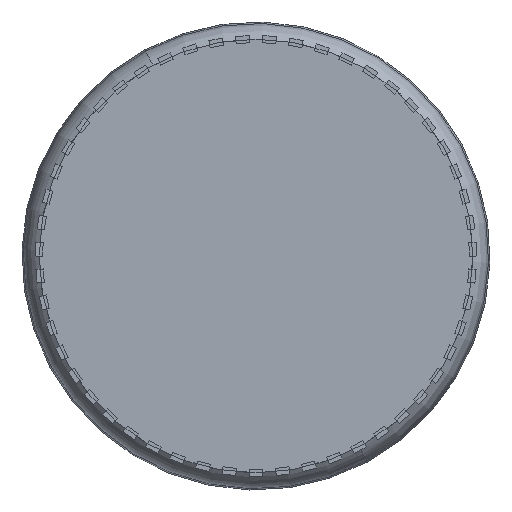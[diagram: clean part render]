
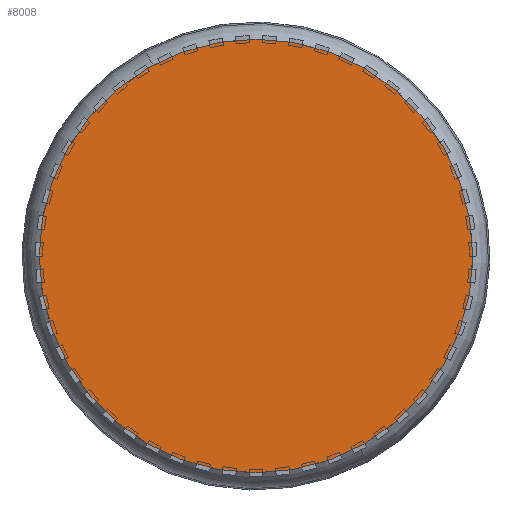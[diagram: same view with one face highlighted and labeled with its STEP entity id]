
A CAD part, front view. The second image highlights one B-rep face of the part: STEP entity #8008.
In plain terms, the highlighted planar face has unit normal (0, -1, 0).
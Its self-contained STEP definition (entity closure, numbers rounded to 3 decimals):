
#298 = PLANE ( 'NONE',  #6568 ) ;
#396 = EDGE_CURVE ( 'NONE', #6819, #2392, #6017, .T. ) ;
#409 = AXIS2_PLACEMENT_3D ( 'NONE', #6498, #8413, #8586 ) ;
#670 = ORIENTED_EDGE ( 'NONE', *, *, #396, .F. ) ;
#1465 = CARTESIAN_POINT ( 'NONE',  ( 0., 0., 37.5 ) ) ;
#2392 = VERTEX_POINT ( 'NONE', #2557 ) ;
#2557 = CARTESIAN_POINT ( 'NONE',  ( 0., 0., -37.5 ) ) ;
#3121 = DIRECTION ( 'NONE',  ( 0., 0., 1. ) ) ;
#3491 = CARTESIAN_POINT ( 'NONE',  ( 0., 0., 0. ) ) ;
#4220 = DIRECTION ( 'NONE',  ( 0., 0., 1. ) ) ;
#4349 = DIRECTION ( 'NONE',  ( 0., 1., 0. ) ) ;
#4404 = AXIS2_PLACEMENT_3D ( 'NONE', #3491, #4349, #4220 ) ;
#4616 = DIRECTION ( 'NONE',  ( 0., 1., 0. ) ) ;
#6017 = CIRCLE ( 'NONE', #4404, 37.5 ) ;
#6498 = CARTESIAN_POINT ( 'NONE',  ( 0., 0., 0. ) ) ;
#6568 = AXIS2_PLACEMENT_3D ( 'NONE', #8690, #4616, #3121 ) ;
#6696 = FACE_OUTER_BOUND ( 'NONE', #7115, .T. ) ;
#6819 = VERTEX_POINT ( 'NONE', #1465 ) ;
#7115 = EDGE_LOOP ( 'NONE', ( #8340, #670 ) ) ;
#7303 = EDGE_CURVE ( 'NONE', #2392, #6819, #8442, .T. ) ;
#8008 = ADVANCED_FACE ( 'NONE', ( #6696 ), #298, .F. ) ;
#8340 = ORIENTED_EDGE ( 'NONE', *, *, #7303, .F. ) ;
#8413 = DIRECTION ( 'NONE',  ( 0., 1., 0. ) ) ;
#8442 = CIRCLE ( 'NONE', #409, 37.5 ) ;
#8586 = DIRECTION ( 'NONE',  ( 0., 0., 1. ) ) ;
#8690 = CARTESIAN_POINT ( 'NONE',  ( 0., 0., 0. ) ) ;
